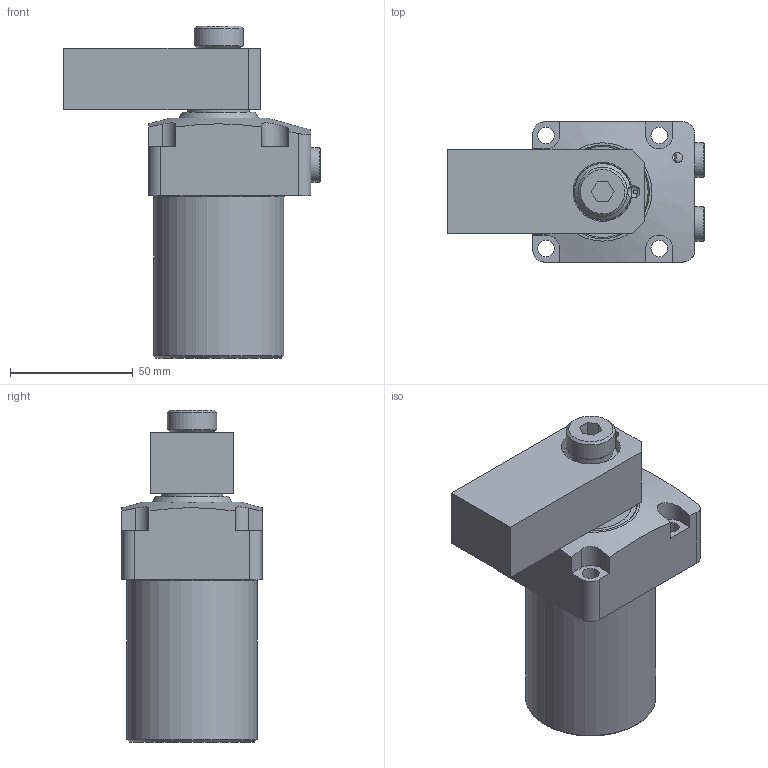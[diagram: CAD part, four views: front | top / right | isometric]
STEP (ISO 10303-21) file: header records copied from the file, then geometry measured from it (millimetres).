
FILE_DESCRIPTION(/* description */ (''),/* implementation_level */ '2;1');
FILE_NAME(/* name */ 'TRC06-L(带锥套-压板)X.stp',/* time_stamp */ '2025-07-21T11:16:03+08:00',/* author */ (''),/* organization */ (''),/* preprocessor_version */ 'ST-DEVELOPER v16.7',/* originating_system */ 'SIEMENS PLM Software NX 12.0',/* authorisation */ '');
FILE_SCHEMA (('AP203_CONFIGURATION_CONTROLLED_3D_DESIGN_OF_MECHANICAL_PARTS_AND_ASSEMBLIES_MIM_LF { 1 0 10303 403 2 1 2}'));
Length unit declared in the file: millimetre
Products named in the file (1): 123FE38B2C6q4jt
Bounding box: 104.3 x 57 x 135 mm (x, y, z)
Volume: 296600.5 mm3; surface area: 52914.9 mm2
Topology: 5 solids, 6 shells, 140 faces, 324 edges, 212 vertices
Faces by surface type: plane 74, cylinder 41, cone 18, torus 6, sphere 1
Full cylindrical faces by diameter (mm): 4 x2, 6.8 x4, 8.3 x2, 8.7 x2, 9.728 x4, 10.2 x2, 14 x2, 17.5 x2, 18 x1, 20 x1, 25 x2, 28 x1, 37 x1, 53 x1
Entity records: 5135 total; most frequent: CARTESIAN_POINT 1153, DIRECTION 596, ORIENTED_EDGE 534, EDGE_CURVE 267, AXIS2_PLACEMENT_3D 233, EDGE_LOOP 215, VERTEX_POINT 200, ADVANCED_FACE 140
